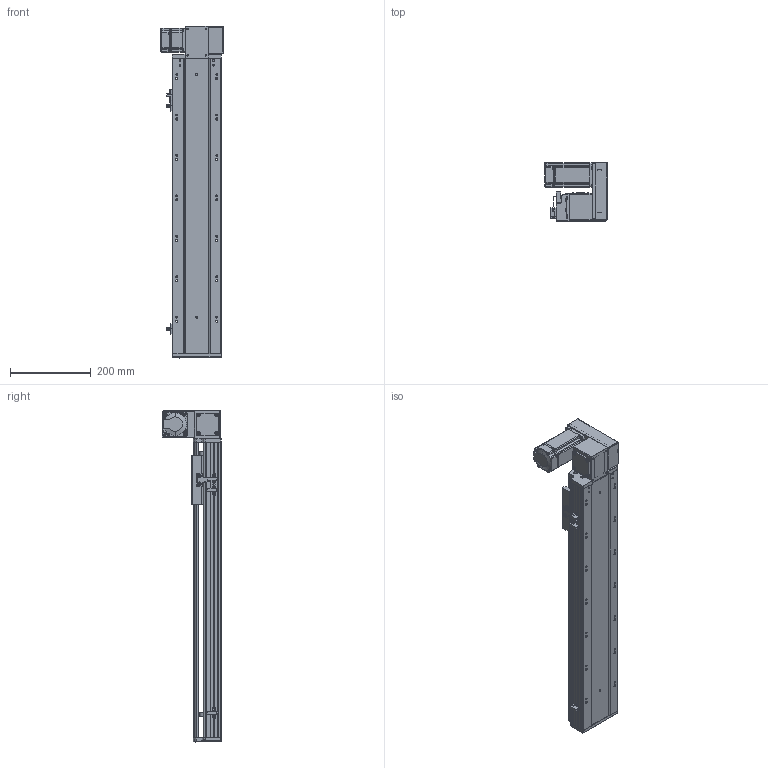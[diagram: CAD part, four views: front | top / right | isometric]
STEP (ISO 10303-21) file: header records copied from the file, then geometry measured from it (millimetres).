
FILE_DESCRIPTION (( 'STEP AP203' ), '1' );
FILE_NAME ('RY120-T-300-UR.SLDASM_500.step', '2021-03-01T05:55:48', ( '盈信电脑' ), ( '东莞市道滘镇水果街19号' ), 'SwSTEP 2.0', 'SolidWorks 2012', '' );
FILE_SCHEMA (( 'CONFIG_CONTROL_DESIGN' ));
Length unit declared in the file: millimetre
Products named in the file (17): RY120-T-300-UR.SLDASM_500; RY120-T主同步轮轴承压盖; 15; RY120-T蹟翐M4; RY120-T萇儂欶; RY120-T翋肮祭盓傅釱; 滅袉蝶18-10; RY120-T翋肮祭謫裔啣; RY120-T萇儂假蚾啣; RY120-T肮祭湍揤踡輸1; 覜茼ん672; RY120-T肮祭湍揤踡輸2; RY120外置感应片(140共用）; RY120-T-300-UR倰第奻裔啣_500; RY120-T-300-UR倰第菁釱_500; RY120綴裔啣; RY120肮祭湍臏賑輸
Assembly tree (22 placements, depth 2):
  RY120-T-300-UR.SLDASM_500
    RY120-T-300-UR倰第菁釱_500
    RY120-T-300-UR倰第奻裔啣_500
    RY120肮祭湍臏賑輸
    RY120綴裔啣
    覜茼ん672  x3
    RY120外置感应片(140共用）
    RY120-T肮祭湍揤踡輸1
    RY120-T肮祭湍揤踡輸2
    RY120-T翋肮祭盓傅釱
    RY120-T萇儂假蚾啣
    滅袉蝶18-10  x2
    RY120-T翋肮祭謫裔啣
    15
    RY120-T蹟翐M4  x4
    RY120-T萇儂欶
    RY120-T主同步轮轴承压盖
Bounding box: 155.5 x 146 x 821 mm (x, y, z)
Volume: 2519477.8 mm3; surface area: 917515.2 mm2
Topology: 23 solids, 23 shells, 2748 faces, 7500 edges, 4830 vertices
Faces by surface type: plane 1412, cylinder 1030, cone 217, bspline 89
Entity records: 87633 total; most frequent: CARTESIAN_POINT 22356, ORIENTED_EDGE 13488, DIRECTION 12702, EDGE_CURVE 6744, VERTEX_POINT 4417, LINE 4240, VECTOR 4240, AXIS2_PLACEMENT_3D 4231
